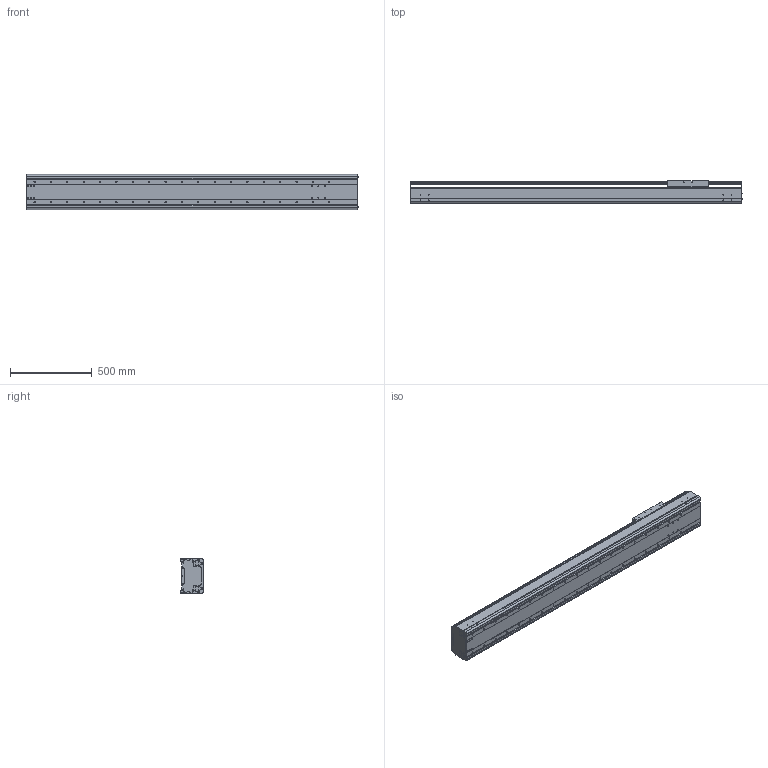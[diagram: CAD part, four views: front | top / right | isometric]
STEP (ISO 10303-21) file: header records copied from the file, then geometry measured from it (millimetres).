
FILE_DESCRIPTION((''),'2;1');
FILE_NAME('BE60J-ST-M_B-F0_IGS_PRT','2017-06-18T',(' '),(''),'PRO/ENGINEER BY PARAMETRIC TECHNOLOGY CORPORATION, 2015030','PRO/ENGINEER BY PARAMETRIC TECHNOLOGY CORPORATION, 2015030','');
FILE_SCHEMA(('CONFIG_CONTROL_DESIGN'));
Length unit declared in the file: millimetre
Products named in the file (1): BE60J-ST-M_B-F0_IGS_PRT
Bounding box: 2027.4 x 140 x 214 mm (x, y, z)
Volume: 15595750.4 mm3; surface area: 4154865.3 mm2
Topology: 2 solids, 28 shells, 1133 faces, 2981 edges, 1922 vertices
Faces by surface type: plane 535, cylinder 498, cone 52, torus 24, sphere 24
Entity records: 35303 total; most frequent: CARTESIAN_POINT 6534, DIRECTION 6176, ORIENTED_EDGE 5764, EDGE_CURVE 2930, AXIS2_PLACEMENT_3D 2222, VERTEX_POINT 1920, VECTOR 1732, LINE 1732
